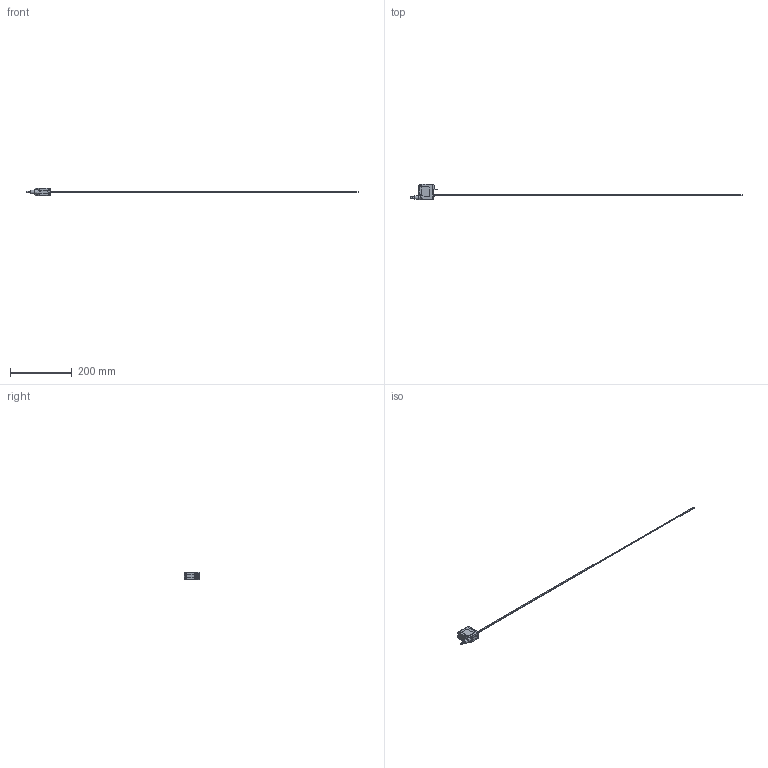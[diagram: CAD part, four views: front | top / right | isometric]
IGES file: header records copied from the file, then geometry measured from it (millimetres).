
Global section: file name: 623-11010_FT 55-RLH2-NS-K4; native system: Autodesk Inventor 2022; preprocessor: unknown; author: Sandra.Stahl; date: 20230127.000113; units: millimetre
Bounding box: 1077.7 x 51 x 23 mm (x, y, z)
Volume: 64438.5 mm3; surface area: 24484.3 mm2
Topology: 5 solids, 5 shells, 221 faces, 545 edges, 344 vertices
Faces by surface type: bspline 221
